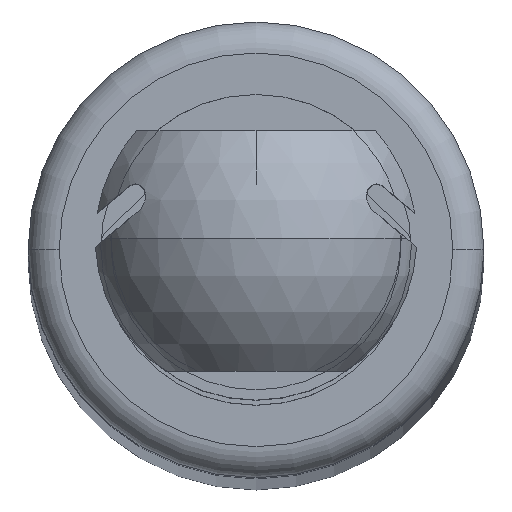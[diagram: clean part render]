
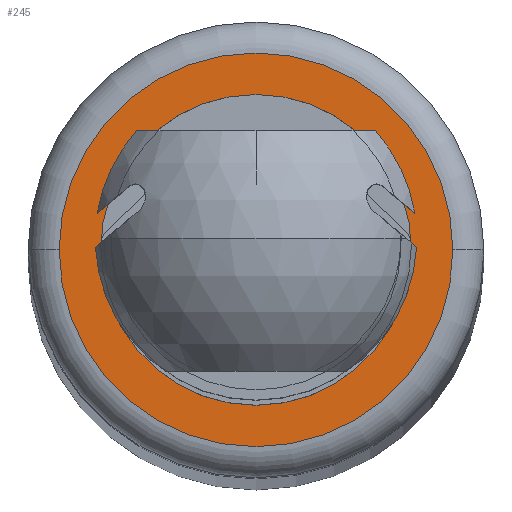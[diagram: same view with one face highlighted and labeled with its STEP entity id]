
A CAD part, top view. The second image highlights one B-rep face of the part: STEP entity #245.
In plain terms, the highlighted planar face has unit normal (0, 0, 1).
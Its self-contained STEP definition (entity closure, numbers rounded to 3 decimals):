
#245 = ADVANCED_FACE ( 'NONE', ( #3945, #3941 ), #2930, .T. ) ;
#247 = EDGE_CURVE ( 'NONE', #2231, #2039, #4637, .T. ) ;
#304 = EDGE_CURVE ( 'NONE', #563, #2257, #4003, .T. ) ;
#337 = EDGE_LOOP ( 'NONE', ( #3704, #3705 ) ) ;
#387 = EDGE_LOOP ( 'NONE', ( #3627, #3777 ) ) ;
#563 = VERTEX_POINT ( 'NONE', #3504 ) ;
#2039 = VERTEX_POINT ( 'NONE', #3439 ) ;
#2231 = VERTEX_POINT ( 'NONE', #3361 ) ;
#2257 = VERTEX_POINT ( 'NONE', #3353 ) ;
#2572 = EDGE_CURVE ( 'NONE', #2257, #563, #4368, .T. ) ;
#2577 = EDGE_CURVE ( 'NONE', #2039, #2231, #4461, .T. ) ;
#2798 = DIRECTION ( 'NONE',  ( 0., 0., 1. ) ) ;
#2913 = CARTESIAN_POINT ( 'NONE',  ( 0., 0., 0. ) ) ;
#2930 = PLANE ( 'NONE',  #4634 ) ;
#2932 = DIRECTION ( 'NONE',  ( 0., 0., 1. ) ) ;
#2933 = DIRECTION ( 'NONE',  ( 1., 0., 0. ) ) ;
#2934 = DIRECTION ( 'NONE',  ( 0., 0., 1. ) ) ;
#2937 = CARTESIAN_POINT ( 'NONE',  ( 0., 0., 0. ) ) ;
#3009 = DIRECTION ( 'NONE',  ( 1., 0., 0. ) ) ;
#3026 = DIRECTION ( 'NONE',  ( 1., 0., 0. ) ) ;
#3073 = CARTESIAN_POINT ( 'NONE',  ( 0., 0., 0. ) ) ;
#3240 = DIRECTION ( 'NONE',  ( 1., 0., 0. ) ) ;
#3241 = DIRECTION ( 'NONE',  ( 0., 0., 1. ) ) ;
#3242 = CARTESIAN_POINT ( 'NONE',  ( 0., 0., 0. ) ) ;
#3259 = DIRECTION ( 'NONE',  ( 1., 0., 0. ) ) ;
#3260 = DIRECTION ( 'NONE',  ( 0., 0., 1. ) ) ;
#3261 = CARTESIAN_POINT ( 'NONE',  ( 0., 0., 0. ) ) ;
#3353 = CARTESIAN_POINT ( 'NONE',  ( -9.5, 0., 0. ) ) ;
#3361 = CARTESIAN_POINT ( 'NONE',  ( -7.5, 0., 0. ) ) ;
#3439 = CARTESIAN_POINT ( 'NONE',  ( 7.5, 0., 0. ) ) ;
#3504 = CARTESIAN_POINT ( 'NONE',  ( 9.5, 0., 0. ) ) ;
#3627 = ORIENTED_EDGE ( 'NONE', *, *, #304, .T. ) ;
#3704 = ORIENTED_EDGE ( 'NONE', *, *, #2577, .F. ) ;
#3705 = ORIENTED_EDGE ( 'NONE', *, *, #247, .F. ) ;
#3777 = ORIENTED_EDGE ( 'NONE', *, *, #2572, .T. ) ;
#3941 = FACE_BOUND ( 'NONE', #337, .T. ) ;
#3945 = FACE_OUTER_BOUND ( 'NONE', #387, .T. ) ;
#4003 = CIRCLE ( 'NONE', #4004, 9.5 ) ;
#4004 = AXIS2_PLACEMENT_3D ( 'NONE', #2913, #2798, #3026 ) ;
#4368 = CIRCLE ( 'NONE', #4375, 9.5 ) ;
#4371 = AXIS2_PLACEMENT_3D ( 'NONE', #3242, #3241, #3240 ) ;
#4375 = AXIS2_PLACEMENT_3D ( 'NONE', #3261, #3260, #3259 ) ;
#4461 = CIRCLE ( 'NONE', #4371, 7.5 ) ;
#4631 = AXIS2_PLACEMENT_3D ( 'NONE', #3073, #2934, #3009 ) ;
#4634 = AXIS2_PLACEMENT_3D ( 'NONE', #2937, #2932, #2933 ) ;
#4637 = CIRCLE ( 'NONE', #4631, 7.5 ) ;
